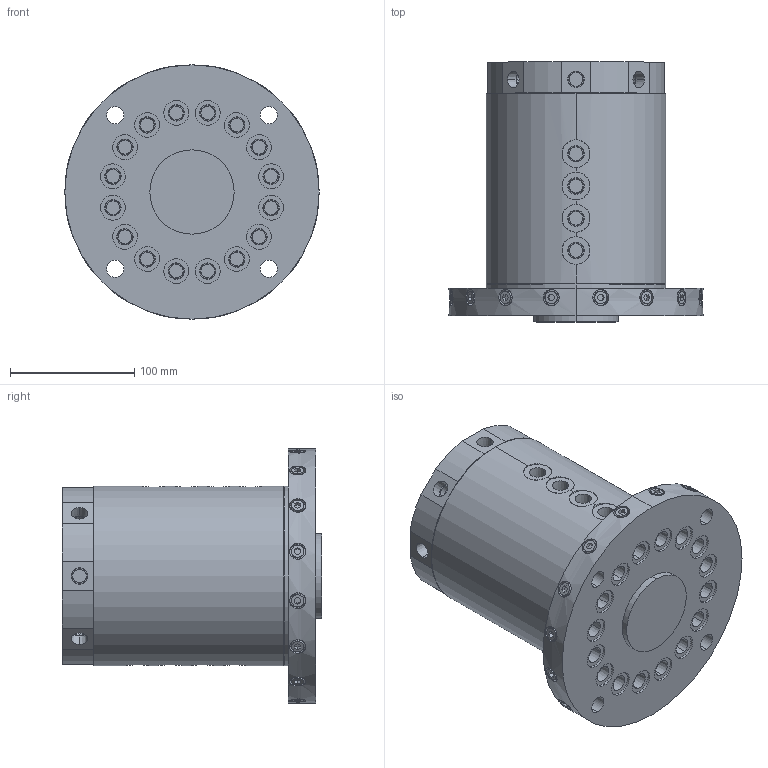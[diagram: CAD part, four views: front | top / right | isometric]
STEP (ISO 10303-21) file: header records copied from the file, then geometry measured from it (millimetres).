
FILE_DESCRIPTION((' '),'2;1');
FILE_NAME( 'PTMD88.x_t.stp', '2025-01-06T11:28:01', (' '), ('--- Datakit www.datakit.com---'), ' Datakit CrossCadWare V2024.1 Dec 21 2023', 'Mastercam 2025', ' ');
FILE_SCHEMA(('AUTOMOTIVE_DESIGN { 1 0 10303 214 1 1 1 1 }'));
Length unit declared in the file: millimetre
Products named in the file (1): PTMD88
Bounding box: 205 x 209.5 x 205 mm (x, y, z)
Volume: 3632850 mm3; surface area: 277369.8 mm2
Topology: 19 solids, 19 shells, 760 faces, 1656 edges, 1112 vertices
Faces by surface type: plane 340, cylinder 260, cone 160
Entity records: 22761 total; most frequent: CARTESIAN_POINT 4873, DIRECTION 3930, ORIENTED_EDGE 3312, EDGE_CURVE 1656, AXIS2_PLACEMENT_3D 1577, VERTEX_POINT 1112, EDGE_LOOP 946, CIRCLE 816
